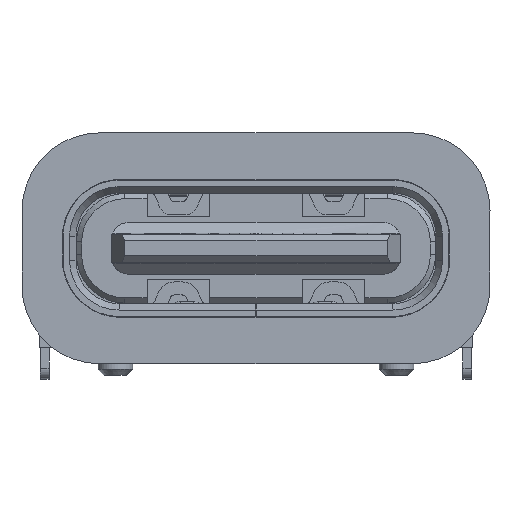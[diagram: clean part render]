
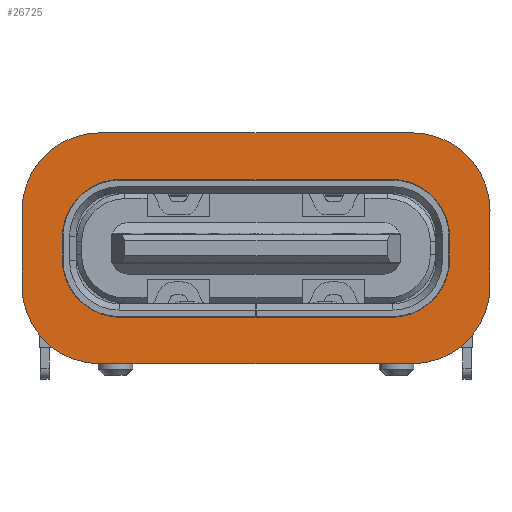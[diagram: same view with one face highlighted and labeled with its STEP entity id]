
A CAD part, front view. The second image highlights one B-rep face of the part: STEP entity #26725.
In plain terms, the highlighted planar face has unit normal (0, -1, 0).
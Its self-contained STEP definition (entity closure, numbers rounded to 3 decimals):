
#88 = EDGE_CURVE ( 'NONE', #8794, #33516, #19907, .T. ) ;
#208 = EDGE_CURVE ( 'NONE', #16273, #8982, #35981, .T. ) ;
#563 = ORIENTED_EDGE ( 'NONE', *, *, #10041, .T. ) ;
#942 = CARTESIAN_POINT ( 'NONE',  ( 31.14, 30., 0.98 ) ) ;
#1295 = DIRECTION ( 'NONE',  ( 0., 1., 0. ) ) ;
#2319 = DIRECTION ( 'NONE',  ( 0., -1., 0. ) ) ;
#2328 = ORIENTED_EDGE ( 'NONE', *, *, #21059, .T. ) ;
#2460 = VECTOR ( 'NONE', #12478, 1000. ) ;
#2785 = CARTESIAN_POINT ( 'NONE',  ( 31.623, 30., 1.705 ) ) ;
#3398 = AXIS2_PLACEMENT_3D ( 'NONE', #37882, #2319, #24640 ) ;
#3642 = EDGE_CURVE ( 'NONE', #12722, #23195, #17569, .T. ) ;
#4339 = ORIENTED_EDGE ( 'NONE', *, *, #29813, .T. ) ;
#4384 = AXIS2_PLACEMENT_3D ( 'NONE', #27813, #18373, #22150 ) ;
#4572 = DIRECTION ( 'NONE',  ( 0., 0., -1. ) ) ;
#4678 = CARTESIAN_POINT ( 'NONE',  ( 24.377, 30., 5.255 ) ) ;
#4903 = CARTESIAN_POINT ( 'NONE',  ( 24.86, 30., -0.095 ) ) ;
#5258 = DIRECTION ( 'NONE',  ( 0., -1., 0. ) ) ;
#5463 = CARTESIAN_POINT ( 'NONE',  ( 24.377, 30., 3.455 ) ) ;
#5691 = CARTESIAN_POINT ( 'NONE',  ( 24.377, 30., -0.095 ) ) ;
#5840 = CARTESIAN_POINT ( 'NONE',  ( 22.577, 30., 2.83 ) ) ;
#6821 = AXIS2_PLACEMENT_3D ( 'NONE', #20703, #10425, #11042 ) ;
#6837 = VECTOR ( 'NONE', #38773, 1000. ) ;
#6917 = CARTESIAN_POINT ( 'NONE',  ( 31.623, 30., 3.455 ) ) ;
#6921 = ORIENTED_EDGE ( 'NONE', *, *, #35799, .T. ) ;
#6939 = EDGE_CURVE ( 'NONE', #33577, #20472, #18465, .T. ) ;
#7440 = CARTESIAN_POINT ( 'NONE',  ( 33.423, 30., 2.33 ) ) ;
#8174 = ORIENTED_EDGE ( 'NONE', *, *, #88, .T. ) ;
#8326 = VECTOR ( 'NONE', #22813, 1000. ) ;
#8418 = ORIENTED_EDGE ( 'NONE', *, *, #6939, .T. ) ;
#8794 = VERTEX_POINT ( 'NONE', #29312 ) ;
#8982 = VERTEX_POINT ( 'NONE', #14168 ) ;
#9198 = DIRECTION ( 'NONE',  ( 0., 0., -1. ) ) ;
#9240 = AXIS2_PLACEMENT_3D ( 'NONE', #5463, #5258, #18099 ) ;
#9538 = VERTEX_POINT ( 'NONE', #22874 ) ;
#9548 = CARTESIAN_POINT ( 'NONE',  ( 31.14, 30., 5.255 ) ) ;
#9780 = CARTESIAN_POINT ( 'NONE',  ( 31.14, 30., 0.98 ) ) ;
#9992 = LINE ( 'NONE', #9780, #8326 ) ;
#10041 = EDGE_CURVE ( 'NONE', #9538, #37519, #27039, .T. ) ;
#10262 = EDGE_LOOP ( 'NONE', ( #23801, #8174, #6921, #19622, #2328, #24862, #12635, #14365 ) ) ;
#10334 = CARTESIAN_POINT ( 'NONE',  ( 23.51, 30., 2.33 ) ) ;
#10425 = DIRECTION ( 'NONE',  ( 0., 1., 0. ) ) ;
#10735 = EDGE_CURVE ( 'NONE', #12826, #9538, #18454, .T. ) ;
#11042 = DIRECTION ( 'NONE',  ( 0., 0., -1. ) ) ;
#11331 = CARTESIAN_POINT ( 'NONE',  ( 31.14, 30., 4.18 ) ) ;
#11457 = EDGE_LOOP ( 'NONE', ( #19596, #563, #34516, #4339, #34309, #8418, #25318, #19004 ) ) ;
#12298 = DIRECTION ( 'NONE',  ( 0., 0., -1. ) ) ;
#12478 = DIRECTION ( 'NONE',  ( 0., 0., -1. ) ) ;
#12611 = VECTOR ( 'NONE', #34069, 1000. ) ;
#12635 = ORIENTED_EDGE ( 'NONE', *, *, #16888, .T. ) ;
#12722 = VERTEX_POINT ( 'NONE', #33416 ) ;
#12826 = VERTEX_POINT ( 'NONE', #15268 ) ;
#13026 = VERTEX_POINT ( 'NONE', #4678 ) ;
#13266 = EDGE_CURVE ( 'NONE', #24374, #8794, #39124, .T. ) ;
#13612 = CARTESIAN_POINT ( 'NONE',  ( 24.86, 30., 4.18 ) ) ;
#13879 = EDGE_CURVE ( 'NONE', #28258, #33577, #20063, .T. ) ;
#14168 = CARTESIAN_POINT ( 'NONE',  ( 32.49, 30., 2.83 ) ) ;
#14245 = EDGE_CURVE ( 'NONE', #32470, #24374, #33651, .T. ) ;
#14365 = ORIENTED_EDGE ( 'NONE', *, *, #14245, .T. ) ;
#14386 = LINE ( 'NONE', #4903, #23196 ) ;
#15268 = CARTESIAN_POINT ( 'NONE',  ( 22.577, 30., 3.455 ) ) ;
#15457 = DIRECTION ( 'NONE',  ( 0., -1., 0. ) ) ;
#15560 = AXIS2_PLACEMENT_3D ( 'NONE', #17075, #23375, #39131 ) ;
#15875 = AXIS2_PLACEMENT_3D ( 'NONE', #39798, #1295, #29731 ) ;
#16273 = VERTEX_POINT ( 'NONE', #11331 ) ;
#16494 = DIRECTION ( 'NONE',  ( -1., 0., 0. ) ) ;
#16888 = EDGE_CURVE ( 'NONE', #23195, #32470, #9992, .T. ) ;
#17075 = CARTESIAN_POINT ( 'NONE',  ( 24.86, 30., 2.33 ) ) ;
#17569 = CIRCLE ( 'NONE', #6821, 1.35 ) ;
#18099 = DIRECTION ( 'NONE',  ( 0., 0., -1. ) ) ;
#18373 = DIRECTION ( 'NONE',  ( 0., 1., 0. ) ) ;
#18386 = DIRECTION ( 'NONE',  ( 0., 0., -1. ) ) ;
#18454 = LINE ( 'NONE', #5840, #36530 ) ;
#18465 = CIRCLE ( 'NONE', #28540, 1.8 ) ;
#18985 = LINE ( 'NONE', #31596, #2460 ) ;
#19004 = ORIENTED_EDGE ( 'NONE', *, *, #35838, .T. ) ;
#19319 = VECTOR ( 'NONE', #16494, 1000. ) ;
#19596 = ORIENTED_EDGE ( 'NONE', *, *, #10735, .T. ) ;
#19622 = ORIENTED_EDGE ( 'NONE', *, *, #208, .T. ) ;
#19907 = CIRCLE ( 'NONE', #15875, 1.35 ) ;
#20063 = LINE ( 'NONE', #7440, #6837 ) ;
#20472 = VERTEX_POINT ( 'NONE', #32724 ) ;
#20703 = CARTESIAN_POINT ( 'NONE',  ( 31.14, 30., 2.33 ) ) ;
#21059 = EDGE_CURVE ( 'NONE', #8982, #12722, #18985, .T. ) ;
#22150 = DIRECTION ( 'NONE',  ( 0., 0., -1. ) ) ;
#22785 = LINE ( 'NONE', #9548, #19319 ) ;
#22813 = DIRECTION ( 'NONE',  ( -1., 0., 0. ) ) ;
#22874 = CARTESIAN_POINT ( 'NONE',  ( 22.577, 30., 1.705 ) ) ;
#23195 = VERTEX_POINT ( 'NONE', #942 ) ;
#23196 = VECTOR ( 'NONE', #26576, 1000. ) ;
#23258 = CARTESIAN_POINT ( 'NONE',  ( 24.86, 30., 0.98 ) ) ;
#23375 = DIRECTION ( 'NONE',  ( 0., 1., 0. ) ) ;
#23683 = CARTESIAN_POINT ( 'NONE',  ( 33.423, 30., 1.705 ) ) ;
#23801 = ORIENTED_EDGE ( 'NONE', *, *, #13266, .T. ) ;
#24374 = VERTEX_POINT ( 'NONE', #29381 ) ;
#24640 = DIRECTION ( 'NONE',  ( 0., 0., -1. ) ) ;
#24862 = ORIENTED_EDGE ( 'NONE', *, *, #3642, .T. ) ;
#25318 = ORIENTED_EDGE ( 'NONE', *, *, #34001, .T. ) ;
#26576 = DIRECTION ( 'NONE',  ( 1., 0., 0. ) ) ;
#26725 = ADVANCED_FACE ( 'NONE', ( #28624, #41465 ), #28208, .T. ) ;
#27039 = CIRCLE ( 'NONE', #29745, 1.8 ) ;
#27295 = AXIS2_PLACEMENT_3D ( 'NONE', #2785, #28459, #18386 ) ;
#27813 = CARTESIAN_POINT ( 'NONE',  ( 31.14, 30., 2.83 ) ) ;
#27959 = CARTESIAN_POINT ( 'NONE',  ( 24.86, 30., 4.18 ) ) ;
#28208 = PLANE ( 'NONE',  #3398 ) ;
#28258 = VERTEX_POINT ( 'NONE', #23683 ) ;
#28459 = DIRECTION ( 'NONE',  ( 0., -1., 0. ) ) ;
#28540 = AXIS2_PLACEMENT_3D ( 'NONE', #6917, #33378, #4572 ) ;
#28624 = FACE_BOUND ( 'NONE', #10262, .T. ) ;
#28671 = EDGE_CURVE ( 'NONE', #37519, #33572, #14386, .T. ) ;
#29312 = CARTESIAN_POINT ( 'NONE',  ( 23.51, 30., 2.83 ) ) ;
#29314 = CIRCLE ( 'NONE', #27295, 1.8 ) ;
#29381 = CARTESIAN_POINT ( 'NONE',  ( 23.51, 30., 2.33 ) ) ;
#29666 = DIRECTION ( 'NONE',  ( 0., 0., 1. ) ) ;
#29731 = DIRECTION ( 'NONE',  ( 0., 0., -1. ) ) ;
#29745 = AXIS2_PLACEMENT_3D ( 'NONE', #41094, #15457, #12298 ) ;
#29813 = EDGE_CURVE ( 'NONE', #33572, #28258, #29314, .T. ) ;
#30392 = CARTESIAN_POINT ( 'NONE',  ( 33.423, 30., 3.455 ) ) ;
#30601 = CARTESIAN_POINT ( 'NONE',  ( 31.623, 30., -0.095 ) ) ;
#31596 = CARTESIAN_POINT ( 'NONE',  ( 32.49, 30., 2.83 ) ) ;
#32470 = VERTEX_POINT ( 'NONE', #23258 ) ;
#32724 = CARTESIAN_POINT ( 'NONE',  ( 31.623, 30., 5.255 ) ) ;
#33378 = DIRECTION ( 'NONE',  ( 0., -1., 0. ) ) ;
#33416 = CARTESIAN_POINT ( 'NONE',  ( 32.49, 30., 2.33 ) ) ;
#33516 = VERTEX_POINT ( 'NONE', #13612 ) ;
#33572 = VERTEX_POINT ( 'NONE', #30601 ) ;
#33577 = VERTEX_POINT ( 'NONE', #30392 ) ;
#33651 = CIRCLE ( 'NONE', #15560, 1.35 ) ;
#34001 = EDGE_CURVE ( 'NONE', #20472, #13026, #22785, .T. ) ;
#34069 = DIRECTION ( 'NONE',  ( 1., 0., 0. ) ) ;
#34309 = ORIENTED_EDGE ( 'NONE', *, *, #13879, .T. ) ;
#34516 = ORIENTED_EDGE ( 'NONE', *, *, #28671, .T. ) ;
#35799 = EDGE_CURVE ( 'NONE', #33516, #16273, #41216, .T. ) ;
#35838 = EDGE_CURVE ( 'NONE', #13026, #12826, #36100, .T. ) ;
#35981 = CIRCLE ( 'NONE', #4384, 1.35 ) ;
#36100 = CIRCLE ( 'NONE', #9240, 1.8 ) ;
#36530 = VECTOR ( 'NONE', #9198, 1000. ) ;
#37519 = VERTEX_POINT ( 'NONE', #5691 ) ;
#37882 = CARTESIAN_POINT ( 'NONE',  ( 24.86, 30., 2.33 ) ) ;
#38773 = DIRECTION ( 'NONE',  ( 0., 0., 1. ) ) ;
#38996 = VECTOR ( 'NONE', #29666, 1000. ) ;
#39124 = LINE ( 'NONE', #10334, #38996 ) ;
#39131 = DIRECTION ( 'NONE',  ( 0., 0., -1. ) ) ;
#39798 = CARTESIAN_POINT ( 'NONE',  ( 24.86, 30., 2.83 ) ) ;
#41094 = CARTESIAN_POINT ( 'NONE',  ( 24.377, 30., 1.705 ) ) ;
#41216 = LINE ( 'NONE', #27959, #12611 ) ;
#41465 = FACE_OUTER_BOUND ( 'NONE', #11457, .T. ) ;
